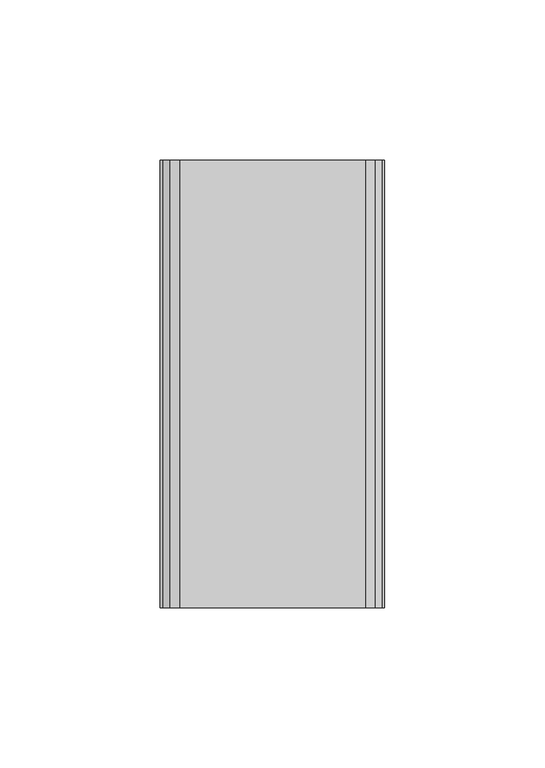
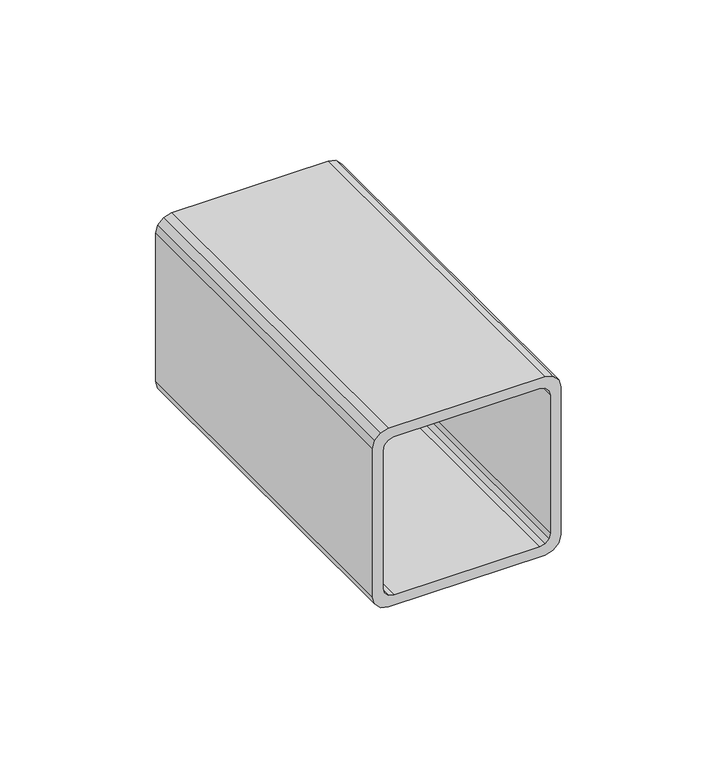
"""IFC4 building model written with IfcOpenShell, lengths in millimetres: beam geometry,  202132 :  202132."""

from ifc_helpers import new_model, si_unit, frame, origin, place, context, project, spatial, polyline, outline, extrude, source, transform, mapped, element, save


def beam_7b8623fb(model_context):
    return source(origin(), model_context, "Body", "SweptSolid", [
        extrude(outline(polyline([(1590.9478709, 22.8791579), (1587.9478709, 23.6830055), (1585.7517184, 25.8791579), (1584.9478709, 28.8791579), (1584.9478709, 86.8791579), (1585.7517184, 89.8791579), (1587.9478709, 92.0753103), (1590.9478709, 92.8791579), (1648.9478709, 92.8791579), (1651.9478709, 92.0753103), (1654.1440233, 89.8791579), (1654.9478709, 86.8791579), (1654.9478709, 28.8791579), (1654.1440233, 25.8791579), (1651.9478709, 23.6830055), (1648.9478709, 22.8791579), (1590.9478709, 22.8791579)]), holes=[polyline([(1646.9478709, 26.8791579), (1648.9478709, 27.4150563), (1650.4119725, 28.8791579), (1650.9478709, 30.8791579), (1650.9478709, 84.8791579), (1650.4119725, 86.8791579), (1648.9478709, 88.3432595), (1646.9478709, 88.8791579), (1592.9478709, 88.8791579), (1590.9478709, 88.3432595), (1589.4837692, 86.8791579), (1588.9478709, 84.8791579), (1588.9478709, 30.8791579), (1589.4837692, 28.8791579), (1590.9478709, 27.4150563), (1592.9478709, 26.8791579), (1646.9478709, 26.8791579)])]), frame((0.0, -114.45, 0.0), z_axis=(0.0, 1.0, 0.0), x_axis=(0.0, 0.0, 1.0)), (0.0, 0.0, 1.0), 139.45),
    ])


if __name__ == "__main__":
    model = new_model("IFC4")
    model_context = context("Model", 3, world=origin())
    ifc_project = project(units=[si_unit("LENGTHUNIT", "METRE", prefix="MILLI")], contexts=[model_context])
    site = spatial("IfcSite", under=ifc_project)
    building = spatial("IfcBuilding", under=site)
    placement = place(None, origin())
    beam_shape = beam_7b8623fb(model_context)
    element("IfcBeam", 1, ObjectType=" 202132 :  202132", at=placement, inside=building, context=model_context, shape_type="MappedRepresentation", body=[
        mapped(beam_shape, transform((0.0, 0.0, 0.0), x_axis=(1.0, 0.0, 0.0), y_axis=(0.0, 1.0, 0.0), z_axis=(0.0, 0.0, 1.0))),
    ])
    save(model, "model.ifc")
